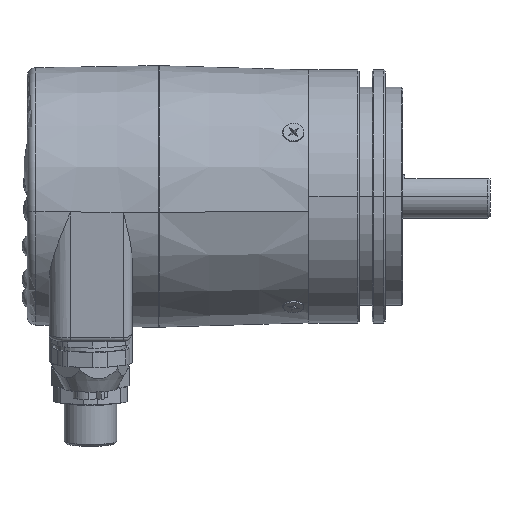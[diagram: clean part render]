
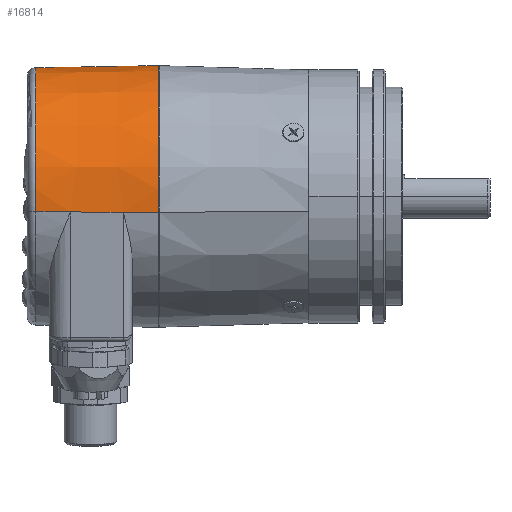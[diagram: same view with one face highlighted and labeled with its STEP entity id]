
A CAD part, top view. The second image highlights one B-rep face of the part: STEP entity #16814.
In plain terms, the highlighted conical face has half-angle 1 degrees and reference radius 30 mm.
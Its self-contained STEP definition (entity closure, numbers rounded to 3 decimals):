
#12648 = CARTESIAN_POINT ( 'NONE',  ( -27., -3.656, 29.776 ) ) ;
#12676 = AXIS2_PLACEMENT_3D ( 'NONE', #12815, #12873, #12851 ) ;
#12682 = CARTESIAN_POINT ( 'NONE',  ( -55.035, -3.596, 29.291 ) ) ;
#12815 = CARTESIAN_POINT ( 'NONE',  ( -27., 0., 0. ) ) ;
#12851 = DIRECTION ( 'NONE',  ( 0., 0.122, -0.993 ) ) ;
#12873 = DIRECTION ( 'NONE',  ( 1., 0., 0. ) ) ;
#12906 = CIRCLE ( 'NONE', #12676, 30. ) ;
#13102 = DIRECTION ( 'NONE',  ( 1., 0.002, -0.017 ) ) ;
#13103 = VECTOR ( 'NONE', #13102, 1000. ) ;
#13127 = CARTESIAN_POINT ( 'NONE',  ( -27., 3.656, -29.776 ) ) ;
#13140 = CARTESIAN_POINT ( 'NONE',  ( -47.087, 3.613, -29.428 ) ) ;
#13171 = LINE ( 'NONE', #13127, #13103 ) ;
#14144 = DIRECTION ( 'NONE',  ( 1., 0.002, -0.017 ) ) ;
#14145 = VECTOR ( 'NONE', #14144, 1000. ) ;
#14146 = CARTESIAN_POINT ( 'NONE',  ( -27., 3.656, -29.776 ) ) ;
#14147 = LINE ( 'NONE', #14146, #14145 ) ;
#14159 = CARTESIAN_POINT ( 'NONE',  ( -27.523, -3.655, 29.767 ) ) ;
#14160 = LINE ( 'NONE', #14159, #14235 ) ;
#14161 = CARTESIAN_POINT ( 'NONE',  ( -55.035, 3.596, -29.291 ) ) ;
#14162 = DIRECTION ( 'NONE',  ( 0., 0.122, -0.993 ) ) ;
#14163 = DIRECTION ( 'NONE',  ( 1., 0., 0. ) ) ;
#14164 = AXIS2_PLACEMENT_3D ( 'NONE', #14200, #14163, #14162 ) ;
#14168 = FACE_OUTER_BOUND ( 'NONE', #16817, .T. ) ;
#14169 = DIRECTION ( 'NONE',  ( 1., -0.002, 0.017 ) ) ;
#14170 = VECTOR ( 'NONE', #14169, 1000. ) ;
#14171 = CARTESIAN_POINT ( 'NONE',  ( -27., -3.656, 29.776 ) ) ;
#14172 = LINE ( 'NONE', #14171, #14170 ) ;
#14174 = DIRECTION ( 'NONE',  ( 0., -0.122, 0.993 ) ) ;
#14175 = DIRECTION ( 'NONE',  ( 1., 0., 0. ) ) ;
#14176 = CARTESIAN_POINT ( 'NONE',  ( -55.035, 0., 0. ) ) ;
#14177 = AXIS2_PLACEMENT_3D ( 'NONE', #14176, #14175, #14174 ) ;
#14178 = CIRCLE ( 'NONE', #14177, 29.511 ) ;
#14198 = CONICAL_SURFACE ( 'NONE', #14164, 30., 0.017 ) ;
#14199 = CARTESIAN_POINT ( 'NONE',  ( -47.087, -3.613, 29.428 ) ) ;
#14200 = CARTESIAN_POINT ( 'NONE',  ( -27., 0., 0. ) ) ;
#14208 = CARTESIAN_POINT ( 'NONE',  ( -35.035, -3.639, 29.637 ) ) ;
#14209 = CARTESIAN_POINT ( 'NONE',  ( -35.035, 3.639, -29.637 ) ) ;
#14210 = DIRECTION ( 'NONE',  ( 1., 0.002, -0.017 ) ) ;
#14211 = VECTOR ( 'NONE', #14210, 1000. ) ;
#14212 = CARTESIAN_POINT ( 'NONE',  ( -27.523, 3.655, -29.767 ) ) ;
#14213 = LINE ( 'NONE', #14212, #14211 ) ;
#14229 = DIRECTION ( 'NONE',  ( 1., -0.002, 0.017 ) ) ;
#14230 = VECTOR ( 'NONE', #14229, 1000. ) ;
#14231 = CARTESIAN_POINT ( 'NONE',  ( -27., -3.656, 29.776 ) ) ;
#14232 = LINE ( 'NONE', #14231, #14230 ) ;
#14233 = CARTESIAN_POINT ( 'NONE',  ( -27., 3.656, -29.776 ) ) ;
#14234 = DIRECTION ( 'NONE',  ( 1., -0.002, 0.017 ) ) ;
#14235 = VECTOR ( 'NONE', #14234, 1000. ) ;
#16376 = ORIENTED_EDGE ( 'NONE', *, *, #16380, .F. ) ;
#16378 = ORIENTED_EDGE ( 'NONE', *, *, #16804, .F. ) ;
#16380 = EDGE_CURVE ( 'NONE', #16827, #16384, #12906, .T. ) ;
#16382 = VERTEX_POINT ( 'NONE', #12682 ) ;
#16384 = VERTEX_POINT ( 'NONE', #12648 ) ;
#16502 = EDGE_CURVE ( 'NONE', #16822, #16503, #13171, .T. ) ;
#16503 = VERTEX_POINT ( 'NONE', #13140 ) ;
#16790 = ORIENTED_EDGE ( 'NONE', *, *, #16502, .F. ) ;
#16792 = EDGE_CURVE ( 'NONE', #16503, #16798, #14213, .T. ) ;
#16794 = ORIENTED_EDGE ( 'NONE', *, *, #16833, .T. ) ;
#16798 = VERTEX_POINT ( 'NONE', #14209 ) ;
#16800 = ORIENTED_EDGE ( 'NONE', *, *, #16811, .T. ) ;
#16802 = VERTEX_POINT ( 'NONE', #14208 ) ;
#16804 = EDGE_CURVE ( 'NONE', #16798, #16827, #14147, .T. ) ;
#16807 = ORIENTED_EDGE ( 'NONE', *, *, #16792, .F. ) ;
#16809 = EDGE_CURVE ( 'NONE', #16822, #16382, #14178, .T. ) ;
#16811 = EDGE_CURVE ( 'NONE', #16802, #16384, #14172, .T. ) ;
#16814 = ADVANCED_FACE ( 'NONE', ( #14168 ), #14198, .T. ) ;
#16817 = EDGE_LOOP ( 'NONE', ( #16830, #16794, #16832, #16800, #16376, #16378, #16807, #16790 ) ) ;
#16818 = VERTEX_POINT ( 'NONE', #14199 ) ;
#16822 = VERTEX_POINT ( 'NONE', #14161 ) ;
#16824 = EDGE_CURVE ( 'NONE', #16818, #16802, #14160, .T. ) ;
#16827 = VERTEX_POINT ( 'NONE', #14233 ) ;
#16830 = ORIENTED_EDGE ( 'NONE', *, *, #16809, .T. ) ;
#16832 = ORIENTED_EDGE ( 'NONE', *, *, #16824, .T. ) ;
#16833 = EDGE_CURVE ( 'NONE', #16382, #16818, #14232, .T. ) ;
